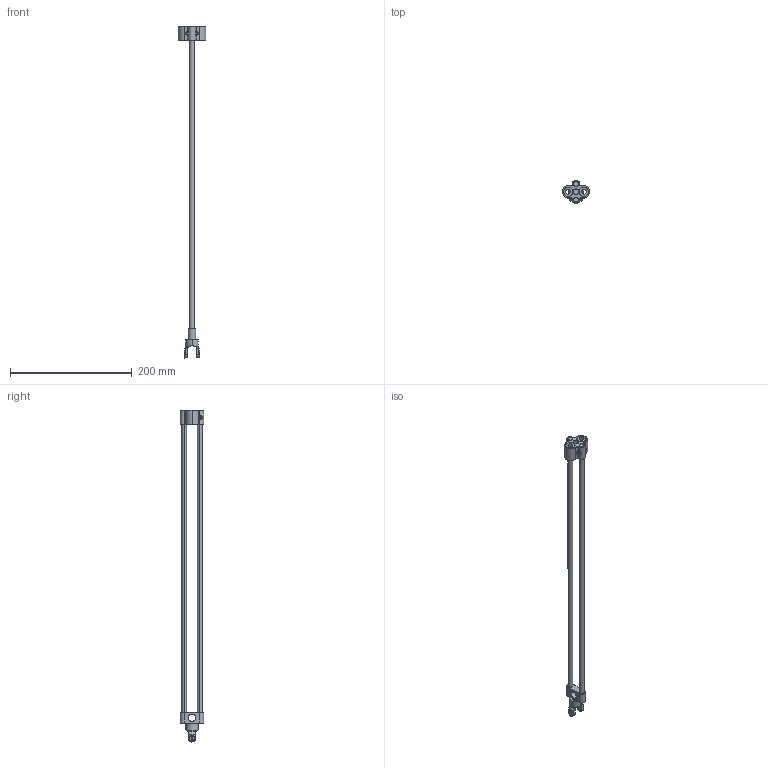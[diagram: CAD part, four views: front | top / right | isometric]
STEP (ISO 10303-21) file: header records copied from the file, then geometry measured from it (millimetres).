
FILE_DESCRIPTION (( 'STEP AP214' ), '1' );
FILE_NAME ('IRB360_X-1130-WDS-4D_rev03_ML_CAD.STEP', '2023-12-04T10:15:41', ( '' ), ( '' ), 'SwSTEP 2.0', 'SolidWorks 2022', '' );
FILE_SCHEMA (( 'AUTOMOTIVE_DESIGN' ));
Length unit declared in the file: millimetre
Products named in the file (1): IRB360_X-1130-WDS-4D_rev03_ML_CAD
Bounding box: 45 x 38 x 545.81 mm (x, y, z)
Volume: 79195 mm3; surface area: 45727.1 mm2
Topology: 11 solids, 11 shells, 264 faces, 607 edges, 361 vertices
Faces by surface type: cylinder 97, plane 69, cone 68, torus 22, bspline 4, sphere 4
Entity records: 8423 total; most frequent: CARTESIAN_POINT 2270, DIRECTION 1319, ORIENTED_EDGE 1194, EDGE_CURVE 597, AXIS2_PLACEMENT_3D 534, VERTEX_POINT 361, EDGE_LOOP 304, CIRCLE 273
